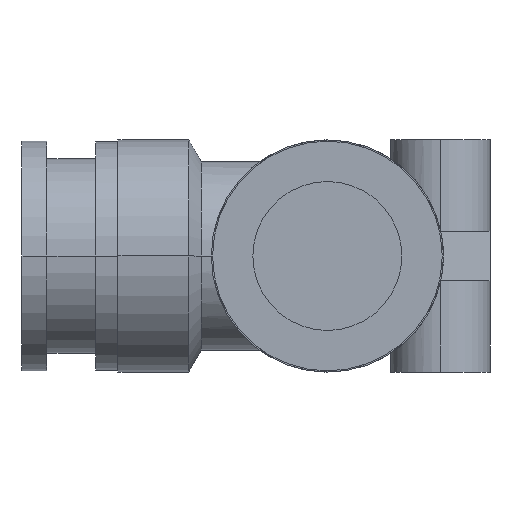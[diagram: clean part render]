
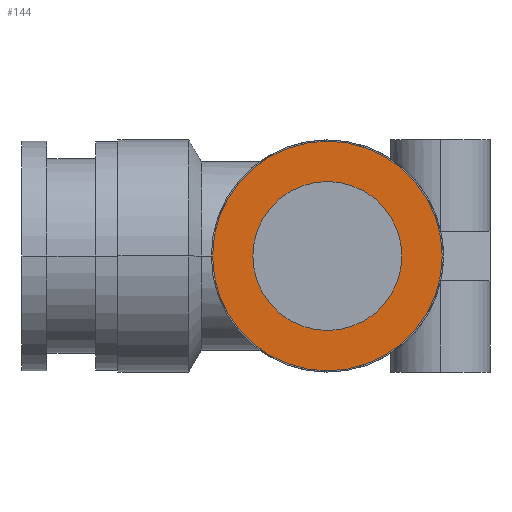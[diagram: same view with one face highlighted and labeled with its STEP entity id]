
A CAD part, left-side view. The second image highlights one B-rep face of the part: STEP entity #144.
In plain terms, the highlighted planar face has unit normal (-1, 0, 0).
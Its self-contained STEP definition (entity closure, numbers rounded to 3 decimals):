
#144 = ADVANCED_FACE( '', ( #297, #298 ), #299, .T. );
#297 = FACE_BOUND( '', #451, .T. );
#298 = FACE_OUTER_BOUND( '', #452, .T. );
#299 = PLANE( '', #453 );
#451 = EDGE_LOOP( '', ( #973, #974 ) );
#452 = EDGE_LOOP( '', ( #975, #976 ) );
#453 = AXIS2_PLACEMENT_3D( '', #977, #978, #979 );
#973 = ORIENTED_EDGE( '', *, *, #1077, .T. );
#974 = ORIENTED_EDGE( '', *, *, #1073, .T. );
#975 = ORIENTED_EDGE( '', *, *, #983, .T. );
#976 = ORIENTED_EDGE( '', *, *, #1137, .T. );
#977 = CARTESIAN_POINT( '', ( -24.6, 4.625, 0. ) );
#978 = DIRECTION( '', ( -1., 0., 0. ) );
#979 = DIRECTION( '', ( 0., 1., 0. ) );
#983 = EDGE_CURVE( '', #1139, #1143, #1145, .T. );
#1073 = EDGE_CURVE( '', #1318, #1315, #1319, .T. );
#1077 = EDGE_CURVE( '', #1315, #1318, #1324, .T. );
#1137 = EDGE_CURVE( '', #1143, #1139, #1397, .T. );
#1139 = VERTEX_POINT( '', #1399 );
#1143 = VERTEX_POINT( '', #1404 );
#1145 = CIRCLE( '', #1407, 9.25 );
#1315 = VERTEX_POINT( '', #1676 );
#1318 = VERTEX_POINT( '', #1680 );
#1319 = CIRCLE( '', #1681, 6. );
#1324 = CIRCLE( '', #1687, 6. );
#1397 = CIRCLE( '', #1829, 9.25 );
#1399 = CARTESIAN_POINT( '', ( -24.6, 9.25, 0. ) );
#1404 = CARTESIAN_POINT( '', ( -24.6, -9.25, 0. ) );
#1407 = AXIS2_PLACEMENT_3D( '', #1835, #1836, #1837 );
#1676 = CARTESIAN_POINT( '', ( -24.6, 6., 0. ) );
#1680 = CARTESIAN_POINT( '', ( -24.6, -6., 0. ) );
#1681 = AXIS2_PLACEMENT_3D( '', #2006, #2007, #2008 );
#1687 = AXIS2_PLACEMENT_3D( '', #2016, #2017, #2018 );
#1829 = AXIS2_PLACEMENT_3D( '', #2159, #2160, #2161 );
#1835 = CARTESIAN_POINT( '', ( -24.6, 0., 0. ) );
#1836 = DIRECTION( '', ( -1., 0., 0. ) );
#1837 = DIRECTION( '', ( 0., 1., 0. ) );
#2006 = CARTESIAN_POINT( '', ( -24.6, 0., 0. ) );
#2007 = DIRECTION( '', ( 1., 0., 0. ) );
#2008 = DIRECTION( '', ( 0., 1., 0. ) );
#2016 = CARTESIAN_POINT( '', ( -24.6, 0., 0. ) );
#2017 = DIRECTION( '', ( 1., 0., 0. ) );
#2018 = DIRECTION( '', ( 0., 1., 0. ) );
#2159 = CARTESIAN_POINT( '', ( -24.6, 0., 0. ) );
#2160 = DIRECTION( '', ( -1., 0., 0. ) );
#2161 = DIRECTION( '', ( 0., 1., 0. ) );
